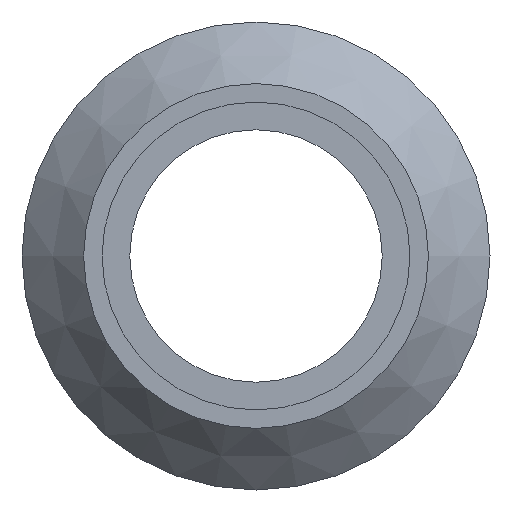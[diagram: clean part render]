
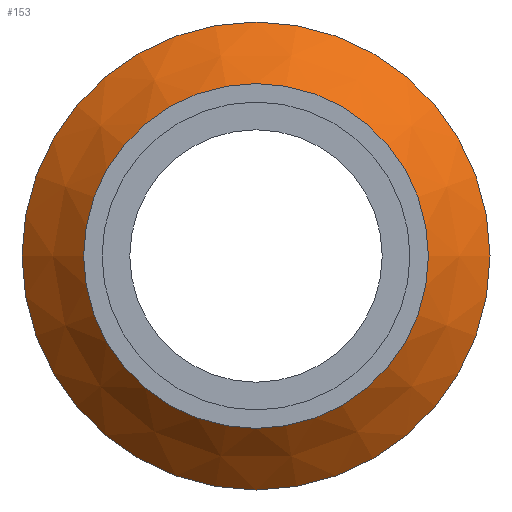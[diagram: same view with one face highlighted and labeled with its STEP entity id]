
A CAD part, left-side view. The second image highlights one B-rep face of the part: STEP entity #153.
In plain terms, the highlighted conical face has half-angle 45 degrees and reference radius 33 mm.
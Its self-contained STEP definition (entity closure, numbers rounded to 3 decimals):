
#32=FACE_BOUND($,#69,.T.);
#46=FACE_OUTER_BOUND($,#68,.T.);
#68=EDGE_LOOP($,(#133));
#69=EDGE_LOOP($,(#134));
#84=CIRCLE($,#179,28.);
#85=CIRCLE($,#181,38.);
#97=VERTEX_POINT($,#270);
#98=VERTEX_POINT($,#273);
#110=EDGE_CURVE($,#97,#97,#84,.T.);
#111=EDGE_CURVE($,#98,#98,#85,.T.);
#133=ORIENTED_EDGE($,*,*,#111,.F.);
#134=ORIENTED_EDGE($,*,*,#110,.T.);
#142=CONICAL_SURFACE($,#180,33.,45.);
#153=ADVANCED_FACE($,(#46,#32),#142,.T.);
#179=AXIS2_PLACEMENT_3D($,#271,#227,#228);
#180=AXIS2_PLACEMENT_3D($,#272,#229,#230);
#181=AXIS2_PLACEMENT_3D($,#274,#231,#232);
#227=DIRECTION('center_axis',(1.,0.,0.));
#228=DIRECTION('ref_axis',(0.,1.,0.));
#229=DIRECTION('center_axis',(1.,0.,0.));
#230=DIRECTION('ref_axis',(0.,1.,0.));
#231=DIRECTION('center_axis',(1.,0.,0.));
#232=DIRECTION('ref_axis',(0.,1.,0.));
#270=CARTESIAN_POINT('',(165.,28.,0.));
#271=CARTESIAN_POINT('Origin',(165.,0.,0.));
#272=CARTESIAN_POINT('Origin',(170.,0.,0.));
#273=CARTESIAN_POINT('',(175.,38.,0.));
#274=CARTESIAN_POINT('Origin',(175.,0.,0.));
